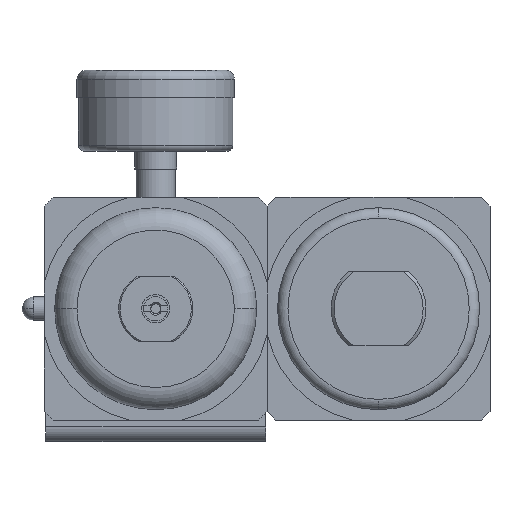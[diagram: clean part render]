
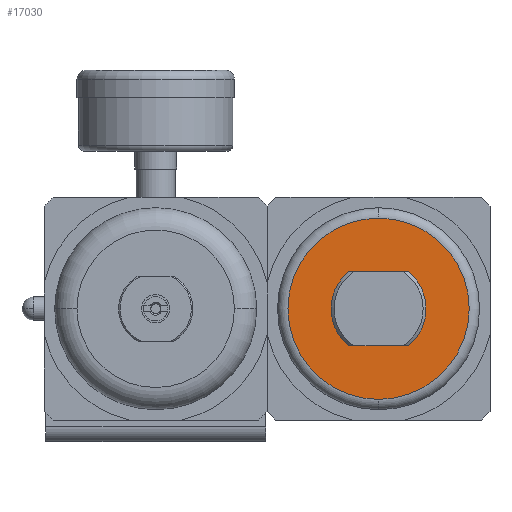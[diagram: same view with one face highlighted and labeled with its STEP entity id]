
A CAD part, front view. The second image highlights one B-rep face of the part: STEP entity #17030.
In plain terms, the highlighted planar face has unit normal (0, -1, 0).
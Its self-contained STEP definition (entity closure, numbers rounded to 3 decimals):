
#558 = ORIENTED_EDGE ( 'NONE', *, *, #4698, .F. ) ;
#824 = DIRECTION ( 'NONE',  ( 1., 0., 0. ) ) ;
#979 = VERTEX_POINT ( 'NONE', #12842 ) ;
#1251 = ORIENTED_EDGE ( 'NONE', *, *, #7522, .T. ) ;
#1850 = EDGE_LOOP ( 'NONE', ( #12673, #1251 ) ) ;
#1860 = EDGE_CURVE ( 'NONE', #4966, #15126, #15024, .T. ) ;
#2386 = AXIS2_PLACEMENT_3D ( 'NONE', #8365, #4485, #3453 ) ;
#2523 = CIRCLE ( 'NONE', #11299, 30.5 ) ;
#2556 = DIRECTION ( 'NONE',  ( 0., 0., -1. ) ) ;
#2800 = CIRCLE ( 'NONE', #15728, 16. ) ;
#3067 = CARTESIAN_POINT ( 'NONE',  ( 68., -140.2, 0. ) ) ;
#3194 = CIRCLE ( 'NONE', #2386, 16. ) ;
#3275 = LINE ( 'NONE', #7323, #11559 ) ;
#3453 = DIRECTION ( 'NONE',  ( 0., 0., -1. ) ) ;
#3956 = VECTOR ( 'NONE', #8533, 1000. ) ;
#4234 = EDGE_LOOP ( 'NONE', ( #558, #12277, #6668, #6484 ) ) ;
#4485 = DIRECTION ( 'NONE',  ( 0., -1., 0. ) ) ;
#4698 = EDGE_CURVE ( 'NONE', #4966, #7415, #3194, .T. ) ;
#4966 = VERTEX_POINT ( 'NONE', #5429 ) ;
#5429 = CARTESIAN_POINT ( 'NONE',  ( 47.487, -140.2, -12.5 ) ) ;
#6428 = DIRECTION ( 'NONE',  ( 0., -1., 0. ) ) ;
#6484 = ORIENTED_EDGE ( 'NONE', *, *, #10109, .T. ) ;
#6668 = ORIENTED_EDGE ( 'NONE', *, *, #10723, .F. ) ;
#7323 = CARTESIAN_POINT ( 'NONE',  ( 27.513, -140.2, 12.5 ) ) ;
#7415 = VERTEX_POINT ( 'NONE', #7734 ) ;
#7522 = EDGE_CURVE ( 'NONE', #16466, #11748, #11881, .T. ) ;
#7734 = CARTESIAN_POINT ( 'NONE',  ( 47.487, -140.2, 12.5 ) ) ;
#8333 = EDGE_CURVE ( 'NONE', #11748, #16466, #2523, .T. ) ;
#8365 = CARTESIAN_POINT ( 'NONE',  ( 37.5, -140.2, 0. ) ) ;
#8533 = DIRECTION ( 'NONE',  ( -1., 0., 0. ) ) ;
#9165 = CARTESIAN_POINT ( 'NONE',  ( 27.513, -140.2, -12.5 ) ) ;
#9603 = FACE_OUTER_BOUND ( 'NONE', #1850, .T. ) ;
#9633 = DIRECTION ( 'NONE',  ( 0., -1., 0. ) ) ;
#9698 = DIRECTION ( 'NONE',  ( 0., 0., -1. ) ) ;
#9933 = DIRECTION ( 'NONE',  ( 0., 1., 0. ) ) ;
#9999 = CARTESIAN_POINT ( 'NONE',  ( 47.487, -140.2, -12.5 ) ) ;
#10109 = EDGE_CURVE ( 'NONE', #979, #7415, #3275, .T. ) ;
#10302 = CARTESIAN_POINT ( 'NONE',  ( 37.5, -140.2, 0. ) ) ;
#10723 = EDGE_CURVE ( 'NONE', #979, #15126, #2800, .T. ) ;
#11299 = AXIS2_PLACEMENT_3D ( 'NONE', #12390, #9633, #12476 ) ;
#11559 = VECTOR ( 'NONE', #12578, 1000. ) ;
#11748 = VERTEX_POINT ( 'NONE', #12996 ) ;
#11881 = CIRCLE ( 'NONE', #12416, 30.5 ) ;
#12277 = ORIENTED_EDGE ( 'NONE', *, *, #1860, .T. ) ;
#12281 = PLANE ( 'NONE',  #13310 ) ;
#12293 = CARTESIAN_POINT ( 'NONE',  ( 37.5, -140.2, 0. ) ) ;
#12390 = CARTESIAN_POINT ( 'NONE',  ( 37.5, -140.2, 0. ) ) ;
#12416 = AXIS2_PLACEMENT_3D ( 'NONE', #12293, #13344, #9698 ) ;
#12476 = DIRECTION ( 'NONE',  ( 0., 0., -1. ) ) ;
#12578 = DIRECTION ( 'NONE',  ( 1., 0., 0. ) ) ;
#12673 = ORIENTED_EDGE ( 'NONE', *, *, #8333, .T. ) ;
#12842 = CARTESIAN_POINT ( 'NONE',  ( 27.513, -140.2, 12.5 ) ) ;
#12996 = CARTESIAN_POINT ( 'NONE',  ( 37.5, -140.2, -30.5 ) ) ;
#13310 = AXIS2_PLACEMENT_3D ( 'NONE', #3067, #9933, #824 ) ;
#13344 = DIRECTION ( 'NONE',  ( 0., -1., 0. ) ) ;
#13644 = CARTESIAN_POINT ( 'NONE',  ( 37.5, -140.2, 30.5 ) ) ;
#15024 = LINE ( 'NONE', #9999, #3956 ) ;
#15126 = VERTEX_POINT ( 'NONE', #9165 ) ;
#15215 = FACE_BOUND ( 'NONE', #4234, .T. ) ;
#15728 = AXIS2_PLACEMENT_3D ( 'NONE', #10302, #6428, #2556 ) ;
#16466 = VERTEX_POINT ( 'NONE', #13644 ) ;
#17030 = ADVANCED_FACE ( 'NONE', ( #9603, #15215 ), #12281, .F. ) ;
